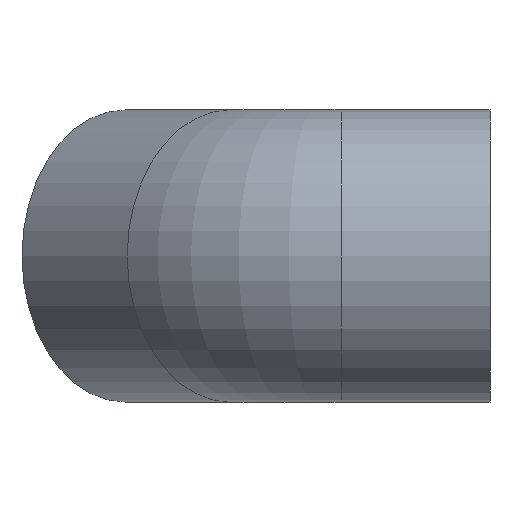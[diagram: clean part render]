
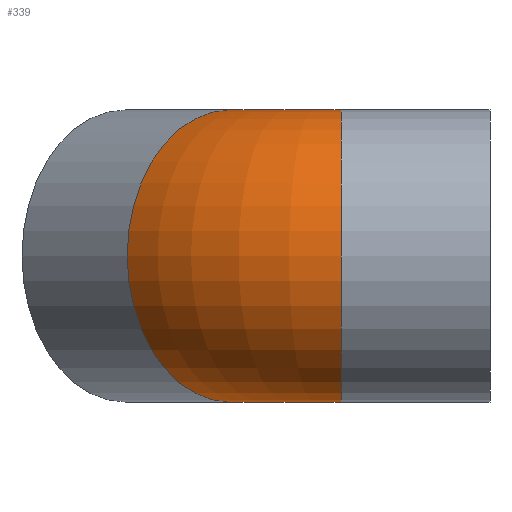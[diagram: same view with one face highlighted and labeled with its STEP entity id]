
A CAD part, left-side view. The second image highlights one B-rep face of the part: STEP entity #339.
In plain terms, the highlighted toroidal (fillet/blend) face has major radius 22 mm and minor radius 20.5 mm.
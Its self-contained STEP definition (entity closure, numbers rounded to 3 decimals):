
#16=TOROIDAL_SURFACE('',#369,22.,20.5);
#23=FACE_BOUND('',#102,.T.);
#71=FACE_OUTER_BOUND('',#101,.T.);
#101=EDGE_LOOP('',(#293));
#102=EDGE_LOOP('',(#294));
#122=CIRCLE('',#368,20.5);
#123=CIRCLE('',#370,20.5);
#174=VERTEX_POINT('',#7300);
#175=VERTEX_POINT('',#7303);
#218=EDGE_CURVE('',#174,#174,#122,.T.);
#219=EDGE_CURVE('',#175,#175,#123,.T.);
#293=ORIENTED_EDGE('',*,*,#218,.F.);
#294=ORIENTED_EDGE('',*,*,#219,.T.);
#339=ADVANCED_FACE('',(#71,#23),#16,.T.);
#368=AXIS2_PLACEMENT_3D('',#7301,#429,#430);
#369=AXIS2_PLACEMENT_3D('',#7302,#431,#432);
#370=AXIS2_PLACEMENT_3D('',#7304,#433,#434);
#429=DIRECTION('center_axis',(0.707,0.707,0.));
#430=DIRECTION('ref_axis',(0.707,-0.707,0.));
#431=DIRECTION('center_axis',(0.,0.,-1.));
#432=DIRECTION('ref_axis',(-1.,0.,0.));
#433=DIRECTION('center_axis',(0.,1.,0.));
#434=DIRECTION('ref_axis',(1.,0.,0.));
#7300=CARTESIAN_POINT('',(-8.052,50.939,0.));
#7301=CARTESIAN_POINT('Origin',(6.444,36.444,0.));
#7302=CARTESIAN_POINT('Origin',(22.,20.887,0.));
#7303=CARTESIAN_POINT('',(-20.5,20.887,0.));
#7304=CARTESIAN_POINT('Origin',(0.,20.887,0.));
